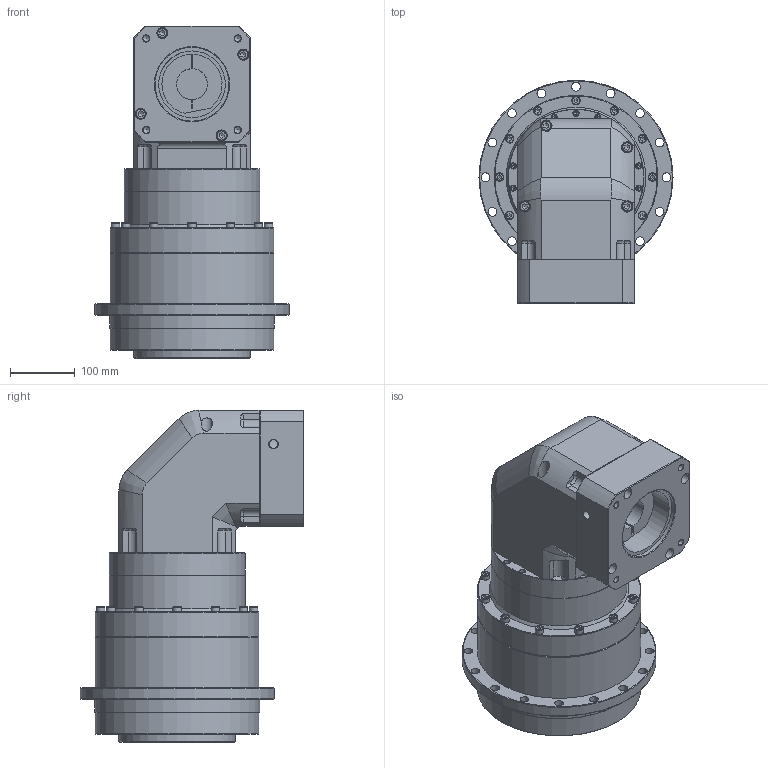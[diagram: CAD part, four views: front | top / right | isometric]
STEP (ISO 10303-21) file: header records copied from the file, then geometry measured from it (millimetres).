
FILE_DESCRIPTION((''),'2;1');
FILE_NAME('D:\유성\유성\도면\3D\2. 홈페이지용 3D 도면 (ipt)\외부도\SPLFH220\SPLFH220D SERIES (2 STAGE).stp','2014-05-08T13:02:25',('nagyu'),(''),'Autodesk Inventor 2013','Autodesk Inventor 2013','');
FILE_SCHEMA(('AUTOMOTIVE_DESIGN { 1 0 10303 214 1 1 1 1 }'));
Length unit declared in the file: millimetre
Products named in the file (1): SPLFH220D SERIES (2 STAGE)_Shrinkwrap_1
Bounding box: 300 x 346 x 513.25 mm (x, y, z)
Volume: 20542190 mm3; surface area: 857254.9 mm2
Topology: 1 solids, 51 shells, 851 faces, 1937 edges, 1242 vertices
Faces by surface type: plane 420, cylinder 252, cone 111, torus 64, bspline 4
Full cylindrical faces by diameter (mm): 5 x7, 5.5 x15, 6.647 x12, 8 x12, 8.376 x8, 8.5 x7, 9 x12, 9.5 x15, 10 x8, 10.106 x4, 11 x8, 12 x1, 13 x12, 13.5 x16, 13.835 x13, 16 x8, 17 x4, 17.5 x4, 24 x12, 48 x1, 64.8 x1, 65 x1, 100 x1, 103 x1, 114.3 x1, 145 x2, 160 x1, 165 x1, 171.6 x1, 172 x1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
Entity records: 21549 total; most frequent: CARTESIAN_POINT 4325, DIRECTION 3501, ORIENTED_EDGE 2806, AXIS2_PLACEMENT_3D 1484, EDGE_CURVE 1403, EDGE_LOOP 1362, VERTEX_POINT 1071, FACE_OUTER_BOUND 851
